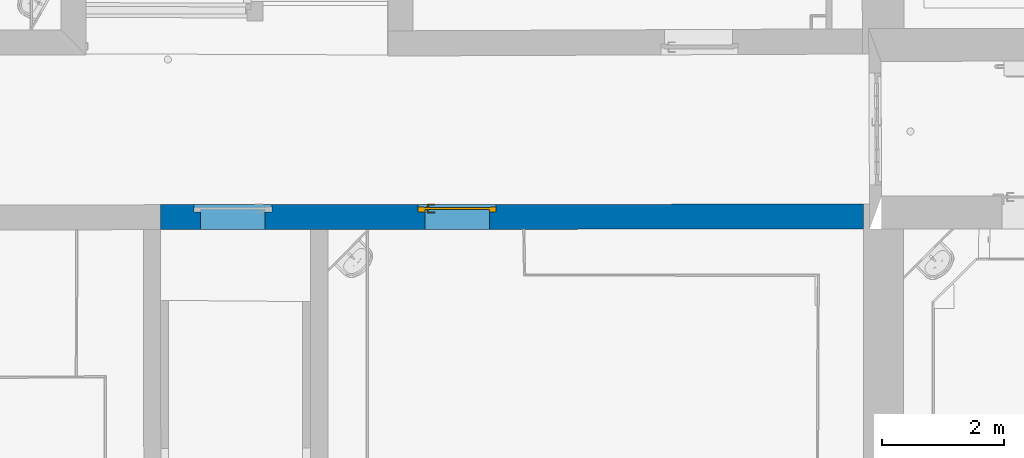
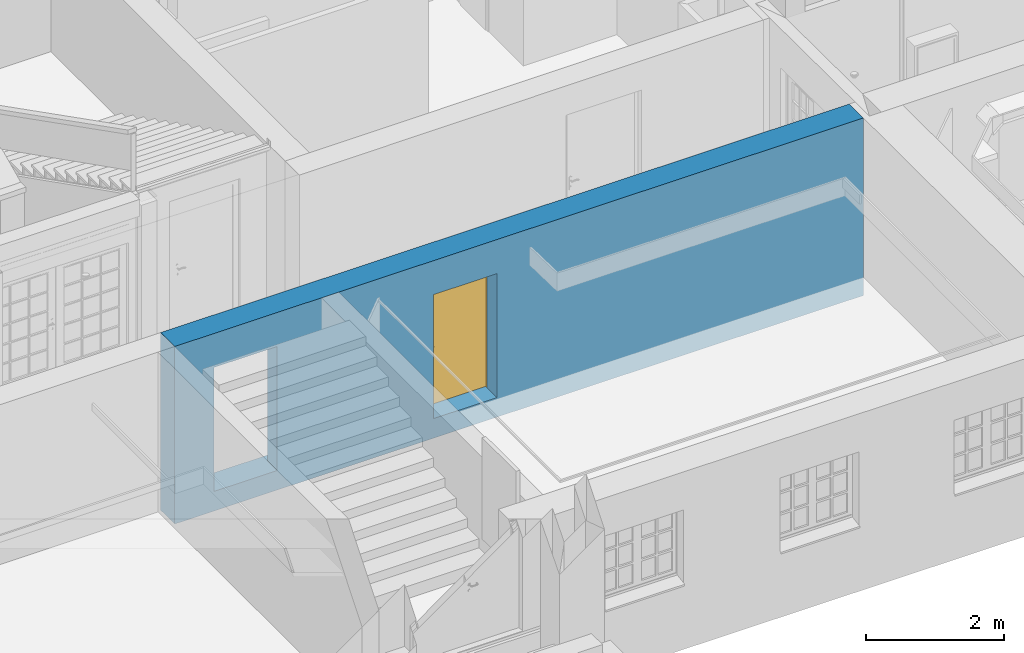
# One storey, part 87 of 196: 1 door, 1 wall, 2 openings.
"""IFC2X3 building model written with IfcOpenShell, lengths in metres."""

from ifc_helpers import new_model, entity, si_unit, converted_unit, derived_unit, money_unit, direction, frame, origin_with_axes, origin_2d_with_axis, place, context, subcontext, project, spatial, polyline, rectangle, outline, extrude, boolean, faceted_brep, material, type_object, element, fill, save


model = new_model("IFC2X3")

# Units and contexts
model_context = context("Model", 3, precision=1e-05, world=origin_with_axes(), true_north=direction((0.0, 1.0)))
body_context = subcontext(model_context, "Body", "Model", "MODEL_VIEW")
ifc_project = project(units=[si_unit("LENGTHUNIT", "METRE"), si_unit("AREAUNIT", "SQUARE_METRE"), si_unit("VOLUMEUNIT", "CUBIC_METRE"), converted_unit("PLANEANGLEUNIT", "DEGREE", entity("IfcPlaneAngleMeasure", 0.0174532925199), si_unit("PLANEANGLEUNIT", "RADIAN"), dimensions=[0, 0, 0, 0, 0, 0, 0]), money_unit("EUR"), converted_unit("TIMEUNIT", "Year", entity("IfcTimeMeasure", 31556926.0), si_unit("TIMEUNIT", "SECOND"), dimensions=[0, 0, 1, 0, 0, 0, 0]), si_unit("MASSUNIT", "GRAM", prefix="KILO"), si_unit("THERMODYNAMICTEMPERATUREUNIT", "DEGREE_CELSIUS"), si_unit("LUMINOUSINTENSITYUNIT", "LUMEN"), si_unit("ENERGYUNIT", "JOULE", prefix="MEGA"), derived_unit("THERMALCONDUCTANCEUNIT", [(si_unit("POWERUNIT", "WATT"), 1), (si_unit("LENGTHUNIT", "METRE"), -1), (si_unit("THERMODYNAMICTEMPERATUREUNIT", "KELVIN"), -1)]), derived_unit("SPECIFICHEATCAPACITYUNIT", [(si_unit("ENERGYUNIT", "JOULE"), 1), (si_unit("MASSUNIT", "GRAM", prefix="KILO"), -1), (si_unit("THERMODYNAMICTEMPERATUREUNIT", "KELVIN"), -1)]), derived_unit("MASSDENSITYUNIT", [(si_unit("MASSUNIT", "GRAM", prefix="KILO"), 1), (si_unit("VOLUMEUNIT", "CUBIC_METRE"), -1)])], contexts=[model_context])

# Site, building, storey
site_placement = place(None, origin_with_axes())
site = spatial("IfcSite", under=ifc_project, at=site_placement, Name="Gelände", CompositionType="ELEMENT")
building_placement = place(site_placement, origin_with_axes())
building = spatial("IfcBuilding", under=site, at=building_placement, Name="Gebäude", CompositionType="ELEMENT")
storey_placement = place(building_placement, frame((0.0, 0.0, -3.0), z_axis=(0.0, 0.0, 1.0), x_axis=(1.0, 0.0, 0.0)))
storey = spatial("IfcBuildingStorey", under=building, at=storey_placement, Name="KELLERGESCHOSS", CompositionType="ELEMENT", Elevation=-3.0)

# Wall, openings, door
ifc_material = material(Name="05_ALLGEMEIN - TRAGENDE BAUTEILE")
wall_type = type_object("IfcWallType", Name="05_ALLGEMEIN - TRAGENDE BAUTEILE 410", PredefinedType="ELEMENTEDWALL")
wall_placement = place(storey_placement, frame((3.60938984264, 16.81025163, -0.36), z_axis=(0.0, 0.0, 1.0), x_axis=(-0.999999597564, -0.000897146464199, 0.0)))
wall = element("IfcWall", 1, at=wall_placement, inside=storey, type_object=wall_type, material=ifc_material, Name="Wand-036", ObjectType="ELEMENTEDWALL", context=body_context, shape_type="CSG", body=[
    boolean("DIFFERENCE", boolean("DIFFERENCE", extrude(outline(polyline([(0.0, 0.0), (12.2253754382, 0.0), (12.2253754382, 0.41), (0.0, 0.41), (0.0, 0.0)])), origin_with_axes(), (0.0, 0.0, 1.0), 3.15), faceted_brep([(12.2250234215, 0.41, 0.0), (12.2250234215, 0.41, 3.15), (12.2253754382, 0.41, 3.15), (12.2253754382, 0.41, 0.0), (12.2253754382, 0.0, 3.15), (12.2253754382, 0.0, 0.0)], [[[0, 1, 2, 3]], [[4, 1, 0, 5]], [[1, 4, 2]], [[4, 5, 3, 2]], [[5, 0, 3]]])), faceted_brep([(0.660000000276, 0.0, 3.15), (0.660011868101, 0.41, 3.15), (0.0, 0.41, 3.15), (0.0, 0.0, 3.15), (0.660011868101, 0.41, 0.0), (0.660000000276, 0.0, 0.0), (0.0, 0.41, 0.0), (0.0, 0.0, 0.0)], [[[0, 1, 2, 3]], [[4, 1, 0, 5]], [[1, 4, 6, 2]], [[2, 6, 7, 3]], [[5, 0, 3, 7]], [[4, 5, 7, 6]]])),
])
opening_1_placement = place(wall_placement, frame((7.34448336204, 0.0, 0.347304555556), z_axis=(0.0, 0.0, 1.0), x_axis=(1.0, 0.0, 0.0)))
opening_1 = element("IfcOpeningElement", 2, at=opening_1_placement, cuts=wall, Name="Tür-022", context=body_context, shape_type="SweptSolid", body=[
    extrude(rectangle(XDim=1.06444475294, YDim=2.200287, at=origin_2d_with_axis()), frame((0.0, 0.123, 1.1001435), z_axis=(0.0, -1.0, 0.0), x_axis=(-1.0, 0.0, 0.0)), (0.0, 0.0, -1.0), 0.697),
    extrude(rectangle(XDim=1.28444475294, YDim=2.310287, at=origin_2d_with_axis()), frame((0.0, 0.043, 1.1551435), z_axis=(0.0, 1.0, 0.0), x_axis=(-1.0, 0.0, 0.0)), (0.0, 0.0, 1.0), 0.08),
    extrude(rectangle(XDim=1.28444475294, YDim=2.310287, at=origin_2d_with_axis()), frame((0.0, 0.043, 1.1551435), z_axis=(0.0, 1.0, 0.0), x_axis=(-1.0, 0.0, 0.0)), (0.0, 0.0, -1.0), 0.453),
])
opening_2_placement = place(wall_placement, frame((11.0361313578, 0.0, 0.347304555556), z_axis=(0.0, 0.0, 1.0), x_axis=(1.0, 0.0, 0.0)))
element("IfcOpeningElement", 3, at=opening_2_placement, cuts=wall, Name="Tür-022", context=body_context, shape_type="SweptSolid", body=[
    extrude(rectangle(XDim=1.06444475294, YDim=2.200287, at=origin_2d_with_axis()), frame((0.0, 0.123, 1.1001435), z_axis=(0.0, 1.0, 0.0), x_axis=(1.0, 0.0, 0.0)), (0.0, 0.0, 1.0), 0.697),
    extrude(rectangle(XDim=1.28444475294, YDim=2.310287, at=origin_2d_with_axis()), frame((0.0, 0.043, 1.1551435), z_axis=(0.0, -1.0, 0.0), x_axis=(1.0, 0.0, 0.0)), (0.0, 0.0, -1.0), 0.08),
    extrude(rectangle(XDim=1.28444475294, YDim=2.310287, at=origin_2d_with_axis()), frame((0.0, 0.043, 1.1551435), z_axis=(0.0, -1.0, 0.0), x_axis=(1.0, 0.0, 0.0)), (0.0, 0.0, 1.0), 0.453),
])
door_style = type_object("IfcDoorStyle", Name="Blockrahmentür 1-Fl 25", ConstructionType="NOTDEFINED", OperationType="SINGLE_SWING_RIGHT", ParameterTakesPrecedence=False, Sizeable=False)
door_placement = place(opening_1_placement, frame((0.532222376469, 0.0, 0.0), z_axis=(0.0, 0.0, 1.0), x_axis=(-1.0, 0.0, 0.0)))
door = element("IfcDoor", 4, at=door_placement, inside=storey, type_object=door_style, Name="Tür-022", ObjectType="NOTDEFINED", OverallHeight=2.31029, OverallWidth=1.28444, context=body_context, shape_type="Brep", body=[
    faceted_brep([(1.17444475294, -0.123, 0.0), (1.17444475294, -0.083, 0.0), (1.17444475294, -0.083, 2.310287), (1.17444475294, -0.123, 2.310287), (1.06444475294, -0.123, 0.0), (1.06444475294, -0.083, 0.0), (1.06444475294, -0.083, 2.200287), (0.644322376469, -0.083, 2.200287), (0.532322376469, -0.083, 2.200287), (0.0, -0.083, 2.200287), (0.0, -0.083, 0.0), (-0.11, -0.083, 0.0), (-0.11, -0.083, 2.310287), (-0.11, -0.123, 2.310287), (-0.11, -0.123, 0.0), (0.0, -0.123, 0.0), (0.0, -0.123, 2.200287), (0.532322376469, -0.123, 2.200287), (0.644322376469, -0.123, 2.200287), (1.06444475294, -0.123, 2.200287)], [[[0, 1, 2, 3]], [[4, 5, 1, 0]], [[1, 5, 6, 7, 8, 9, 10, 11, 12, 2]], [[3, 2, 12, 13]], [[0, 3, 13, 14, 15, 16, 17, 18, 19, 4]], [[19, 6, 5, 4]], [[18, 7, 6, 19]], [[17, 8, 7, 18]], [[16, 9, 8, 17]], [[15, 10, 9, 16]], [[14, 11, 10, 15]], [[13, 12, 11, 14]]]),
    faceted_brep([(1.17444475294, -0.083, 0.0), (1.17444475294, -0.043, 0.0), (1.17444475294, -0.043, 2.310287), (1.17444475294, -0.083, 2.310287), (1.07644475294, -0.083, 0.0), (1.07644475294, -0.043, 0.0), (1.07644475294, -0.043, 2.212287), (0.632322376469, -0.043, 2.212287), (0.544322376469, -0.043, 2.212287), (-0.012, -0.043, 2.212287), (-0.012, -0.043, 0.0), (-0.11, -0.043, 0.0), (-0.11, -0.043, 2.310287), (-0.11, -0.083, 2.310287), (-0.11, -0.083, 0.0), (-0.012, -0.083, 0.0), (-0.012, -0.083, 2.212287), (0.544322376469, -0.083, 2.212287), (0.632322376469, -0.083, 2.212287), (1.07644475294, -0.083, 2.212287)], [[[0, 1, 2, 3]], [[4, 5, 1, 0]], [[1, 5, 6, 7, 8, 9, 10, 11, 12, 2]], [[3, 2, 12, 13]], [[0, 3, 13, 14, 15, 16, 17, 18, 19, 4]], [[19, 6, 5, 4]], [[18, 7, 6, 19]], [[17, 8, 7, 18]], [[16, 9, 8, 17]], [[15, 10, 9, 16]], [[14, 11, 10, 15]], [[13, 12, 11, 14]]]),
    faceted_brep([(1.07644475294, -0.047, 0.0), (-0.012, -0.047, 0.0), (-0.012, -0.047, 2.212287), (1.07644475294, -0.047, 2.212287), (1.07644475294, -0.083, 0.0), (-0.012, -0.083, 0.0), (-0.012, -0.083, 2.212287), (1.07644475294, -0.083, 2.212287)], [[[0, 1, 2, 3]], [[1, 0, 4, 5]], [[2, 1, 5, 6]], [[3, 2, 6, 7]], [[0, 3, 7, 4]], [[5, 4, 7, 6]]]),
    faceted_brep([(0.0432977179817, -0.123, 1.05647213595), (0.048, -0.123, 1.058), (0.048, -0.103, 1.058), (0.0432977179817, -0.103, 1.05647213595), (0.0403915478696, -0.123, 1.05247213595), (0.0403915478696, -0.123, 1.04752786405), (0.0432977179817, -0.123, 1.04352786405), (0.048, -0.123, 1.042), (0.0527022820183, -0.123, 1.04352786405), (0.0556084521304, -0.123, 1.04752786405), (0.0556084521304, -0.123, 1.05247213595), (0.0527022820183, -0.123, 1.05647213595), (0.0527022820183, -0.103, 1.05647213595), (0.048, -0.101, 1.06), (0.0421221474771, -0.101, 1.05809016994), (0.0403915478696, -0.103, 1.05247213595), (0.0403915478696, -0.103, 1.04752786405), (0.0432977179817, -0.103, 1.04352786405), (0.048, -0.103, 1.042), (0.0527022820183, -0.103, 1.04352786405), (0.0556084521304, -0.103, 1.04752786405), (0.0556084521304, -0.103, 1.05247213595), (0.0538778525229, -0.101, 1.05809016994), (0.048, -0.093, 1.06), (0.0421221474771, -0.093, 1.05809016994), (0.038489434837, -0.101, 1.05309016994), (0.038489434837, -0.101, 1.04690983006), (0.0421221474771, -0.101, 1.04190983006), (0.048, -0.101, 1.04), (0.0538778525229, -0.101, 1.04190983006), (0.057510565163, -0.101, 1.04690983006), (0.057510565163, -0.101, 1.05309016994), (0.0538778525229, -0.093, 1.05809016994), (0.057510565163, -0.093, 1.05309016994), (0.057510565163, -0.093, 1.04690983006), (0.0538778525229, -0.093, 1.04190983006), (0.048, -0.093, 1.04), (0.0421221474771, -0.093, 1.04190983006), (0.038489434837, -0.093, 1.04690983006), (0.038489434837, -0.093, 1.05309016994)], [[[0, 1, 2, 3]], [[1, 0, 4, 5, 6, 7, 8, 9, 10, 11]], [[1, 11, 12, 2]], [[3, 2, 13, 14]], [[4, 0, 3, 15]], [[5, 4, 15, 16]], [[6, 5, 16, 17]], [[7, 6, 17, 18]], [[8, 7, 18, 19]], [[9, 8, 19, 20]], [[10, 9, 20, 21]], [[11, 10, 21, 12]], [[2, 12, 22, 13]], [[14, 13, 23, 24]], [[15, 3, 14, 25]], [[16, 15, 25, 26]], [[17, 16, 26, 27]], [[18, 17, 27, 28]], [[19, 18, 28, 29]], [[20, 19, 29, 30]], [[21, 20, 30, 31]], [[12, 21, 31, 22]], [[13, 22, 32, 23]], [[23, 32, 33, 34, 35, 36, 37, 38, 39, 24]], [[25, 14, 24, 39]], [[26, 25, 39, 38]], [[27, 26, 38, 37]], [[28, 27, 37, 36]], [[29, 28, 36, 35]], [[30, 29, 35, 34]], [[31, 30, 34, 33]], [[22, 31, 33, 32]]]),
    faceted_brep([(0.0601883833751, -0.093, 1.11759695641), (0.0524435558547, -0.093, 1.12195567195), (0.0435564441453, -0.093, 1.12195567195), (0.0358116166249, -0.093, 1.11759695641), (0.0312, -0.093, 1.11), (0.0255, -0.093, 1.11), (0.0255, -0.093, 0.89), (0.0312, -0.093, 0.89), (0.0358116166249, -0.093, 0.882403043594), (0.0435564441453, -0.093, 0.878044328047), (0.0524435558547, -0.093, 0.878044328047), (0.0601883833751, -0.093, 0.882403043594), (0.0648, -0.093, 0.89), (0.0705, -0.093, 0.89), (0.0705, -0.093, 1.11), (0.0648, -0.093, 1.11), (0.048, -0.093, 0.967425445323), (0.053375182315, -0.093, 0.965143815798), (0.0554678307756, -0.093, 0.959692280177), (0.053, -0.093, 0.9544), (0.053, -0.093, 0.9375), (0.0515355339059, -0.093, 0.933964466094), (0.048, -0.093, 0.9325), (0.0444644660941, -0.093, 0.933964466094), (0.043, -0.093, 0.9375), (0.043, -0.093, 0.9544), (0.0405321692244, -0.093, 0.959692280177), (0.042624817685, -0.093, 0.965143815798), (0.0601883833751, -0.083, 1.11759695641), (0.0524435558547, -0.083, 1.12195567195), (0.0435564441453, -0.083, 1.12195567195), (0.0358116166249, -0.083, 1.11759695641), (0.0312, -0.083, 1.11), (0.0255, -0.083, 1.11), (0.0255, -0.083, 0.89), (0.0312, -0.083, 0.89), (0.0358116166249, -0.083, 0.882403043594), (0.0435564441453, -0.083, 0.878044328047), (0.0524435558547, -0.083, 0.878044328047), (0.0601883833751, -0.083, 0.882403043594), (0.0648, -0.083, 0.89), (0.0705, -0.083, 0.89), (0.0705, -0.083, 1.11), (0.0648, -0.083, 1.11), (0.048, -0.083, 0.967425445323), (0.053375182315, -0.083, 0.965143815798), (0.0554678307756, -0.083, 0.959692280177), (0.053, -0.083, 0.9544), (0.053, -0.083, 0.9375), (0.0515355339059, -0.083, 0.933964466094), (0.048, -0.083, 0.9325), (0.0444644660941, -0.083, 0.933964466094), (0.043, -0.083, 0.9375), (0.043, -0.083, 0.9544), (0.0405321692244, -0.083, 0.959692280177), (0.042624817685, -0.083, 0.965143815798)], [[[0, 1, 2, 3, 4, 5, 6, 7, 8, 9, 10, 11, 12, 13, 14, 15], [16, 17, 18, 19, 20, 21, 22, 23, 24, 25, 26, 27]], [[1, 0, 28, 29]], [[2, 1, 29, 30]], [[3, 2, 30, 31]], [[4, 3, 31, 32]], [[5, 4, 32, 33]], [[6, 5, 33, 34]], [[7, 6, 34, 35]], [[8, 7, 35, 36]], [[9, 8, 36, 37]], [[10, 9, 37, 38]], [[11, 10, 38, 39]], [[12, 11, 39, 40]], [[13, 12, 40, 41]], [[14, 13, 41, 42]], [[15, 14, 42, 43]], [[0, 15, 43, 28]], [[17, 16, 44, 45]], [[18, 17, 45, 46]], [[19, 18, 46, 47]], [[19, 47, 48, 20]], [[20, 48, 49, 21]], [[21, 49, 50, 22]], [[22, 50, 51, 23]], [[23, 51, 52, 24]], [[53, 25, 24, 52]], [[26, 25, 53, 54]], [[27, 26, 54, 55]], [[16, 27, 55, 44]], [[40, 39, 38, 37, 36, 35, 34, 33, 32, 31, 30, 29, 28, 43, 42, 41], [54, 53, 52, 51, 50, 49, 48, 47, 46, 45, 44, 55]]]),
    faceted_brep([(0.162253, -0.123, 1.057158), (0.162253, -0.138, 1.057158), (0.162254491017, -0.138, 1.05719388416), (0.162254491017, -0.123, 1.05719388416), (0.135225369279, -0.123, 1.06432652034), (0.135225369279, -0.138, 1.06432652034), (0.107397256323, -0.138, 1.06706086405), (0.0794912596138, -0.138, 1.06529002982), (0.052232, -0.138, 1.05906), (0.0458294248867, -0.138, 1.05976125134), (0.0403273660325, -0.138, 1.05641280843), (0.0380084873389, -0.138, 1.05040385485), (0.0398348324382, -0.138, 1.04422735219), (0.0450486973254, -0.138, 1.04044577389), (0.0514869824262, -0.138, 1.04062800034), (0.0564786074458, -0.138, 1.04469843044), (0.056458, -0.138, 1.044666), (0.0817467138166, -0.138, 1.05019878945), (0.107589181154, -0.138, 1.05171460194), (0.133351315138, -0.138, 1.04917624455), (0.158401, -0.138, 1.042646), (0.163944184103, -0.138, 1.04356849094), (0.16730572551, -0.138, 1.04807159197), (0.166614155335, -0.138, 1.05364829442), (0.166614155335, -0.123, 1.05364829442), (0.16730572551, -0.123, 1.04807159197), (0.163944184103, -0.123, 1.04356849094), (0.158401, -0.123, 1.042646), (0.133351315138, -0.123, 1.04917624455), (0.107589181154, -0.123, 1.05171460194), (0.0817467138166, -0.123, 1.05019878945), (0.056458, -0.123, 1.044666), (0.0564786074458, -0.123, 1.04469843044), (0.0514869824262, -0.123, 1.04062800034), (0.0450486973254, -0.123, 1.04044577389), (0.0398348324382, -0.123, 1.04422735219), (0.0380084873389, -0.123, 1.05040385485), (0.0403273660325, -0.123, 1.05641280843), (0.0458294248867, -0.123, 1.05976125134), (0.052232, -0.123, 1.05906), (0.0794912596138, -0.123, 1.06529002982), (0.107397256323, -0.123, 1.06706086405)], [[[0, 1, 2, 3]], [[4, 5, 1, 0]], [[1, 5, 6, 7, 8, 9, 10, 11, 12, 13, 14, 15, 16, 17, 18, 19, 20, 21, 22, 23, 2]], [[3, 2, 23, 24]], [[0, 3, 24, 25, 26, 27, 28, 29, 30, 31, 32, 33, 34, 35, 36, 37, 38, 39, 40, 41, 4]], [[41, 6, 5, 4]], [[40, 7, 6, 41]], [[39, 8, 7, 40]], [[38, 9, 8, 39]], [[37, 10, 9, 38]], [[36, 11, 10, 37]], [[35, 12, 11, 36]], [[34, 13, 12, 35]], [[33, 14, 13, 34]], [[32, 15, 14, 33]], [[31, 16, 15, 32]], [[30, 17, 16, 31]], [[29, 18, 17, 30]], [[28, 19, 18, 29]], [[27, 20, 19, 28]], [[26, 21, 20, 27]], [[25, 22, 21, 26]], [[24, 23, 22, 25]]]),
    faceted_brep([(0.0432977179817, -0.007, 1.05647213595), (0.0432977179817, -0.027, 1.05647213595), (0.048, -0.027, 1.058), (0.048, -0.00699999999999, 1.058), (0.0403915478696, -0.00699999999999, 1.05247213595), (0.0403915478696, -0.027, 1.05247213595), (0.0421221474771, -0.029, 1.05809016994), (0.048, -0.029, 1.06), (0.0527022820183, -0.027, 1.05647213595), (0.0527022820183, -0.00699999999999, 1.05647213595), (0.0556084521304, -0.007, 1.05247213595), (0.0556084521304, -0.007, 1.04752786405), (0.0527022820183, -0.00699999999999, 1.04352786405), (0.048, -0.00699999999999, 1.042), (0.0432977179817, -0.007, 1.04352786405), (0.0403915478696, -0.00699999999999, 1.04752786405), (0.0403915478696, -0.027, 1.04752786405), (0.038489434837, -0.029, 1.05309016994), (0.0421221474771, -0.037, 1.05809016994), (0.048, -0.037, 1.06), (0.0538778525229, -0.029, 1.05809016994), (0.0556084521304, -0.027, 1.05247213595), (0.0556084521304, -0.027, 1.04752786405), (0.0527022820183, -0.027, 1.04352786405), (0.048, -0.027, 1.042), (0.0432977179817, -0.027, 1.04352786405), (0.038489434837, -0.029, 1.04690983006), (0.038489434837, -0.037, 1.05309016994), (0.038489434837, -0.037, 1.04690983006), (0.0421221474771, -0.037, 1.04190983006), (0.048, -0.037, 1.04), (0.0538778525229, -0.037, 1.04190983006), (0.057510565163, -0.037, 1.04690983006), (0.057510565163, -0.037, 1.05309016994), (0.0538778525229, -0.037, 1.05809016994), (0.057510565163, -0.029, 1.05309016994), (0.057510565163, -0.029, 1.04690983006), (0.0538778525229, -0.029, 1.04190983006), (0.048, -0.029, 1.04), (0.0421221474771, -0.029, 1.04190983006)], [[[0, 1, 2, 3]], [[4, 5, 1, 0]], [[1, 6, 7, 2]], [[3, 2, 8, 9]], [[3, 9, 10, 11, 12, 13, 14, 15, 4, 0]], [[15, 16, 5, 4]], [[5, 17, 6, 1]], [[6, 18, 19, 7]], [[2, 7, 20, 8]], [[9, 8, 21, 10]], [[10, 21, 22, 11]], [[11, 22, 23, 12]], [[12, 23, 24, 13]], [[13, 24, 25, 14]], [[14, 25, 16, 15]], [[16, 26, 17, 5]], [[17, 27, 18, 6]], [[19, 18, 27, 28, 29, 30, 31, 32, 33, 34]], [[7, 19, 34, 20]], [[8, 20, 35, 21]], [[21, 35, 36, 22]], [[22, 36, 37, 23]], [[23, 37, 38, 24]], [[24, 38, 39, 25]], [[25, 39, 26, 16]], [[26, 28, 27, 17]], [[39, 29, 28, 26]], [[38, 30, 29, 39]], [[37, 31, 30, 38]], [[36, 32, 31, 37]], [[35, 33, 32, 36]], [[20, 34, 33, 35]]]),
    faceted_brep([(0.0601883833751, -0.047, 1.11759695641), (0.0524435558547, -0.047, 1.12195567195), (0.0435564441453, -0.047, 1.12195567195), (0.0358116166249, -0.047, 1.11759695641), (0.0312, -0.047, 1.11), (0.0255, -0.047, 1.11), (0.0255, -0.047, 0.89), (0.0312, -0.047, 0.89), (0.0358116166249, -0.047, 0.882403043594), (0.0435564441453, -0.047, 0.878044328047), (0.0524435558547, -0.047, 0.878044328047), (0.0601883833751, -0.047, 0.882403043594), (0.0648, -0.047, 0.89), (0.0705, -0.047, 0.89), (0.0705, -0.047, 1.11), (0.0648, -0.047, 1.11), (0.048, -0.047, 0.967425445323), (0.053375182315, -0.047, 0.965143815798), (0.0554678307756, -0.047, 0.959692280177), (0.053, -0.047, 0.9544), (0.053, -0.047, 0.9375), (0.0515355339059, -0.047, 0.933964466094), (0.048, -0.047, 0.9325), (0.0444644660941, -0.047, 0.933964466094), (0.043, -0.047, 0.9375), (0.043, -0.047, 0.9544), (0.0405321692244, -0.047, 0.959692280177), (0.042624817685, -0.047, 0.965143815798), (0.0524435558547, -0.037, 1.12195567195), (0.0601883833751, -0.037, 1.11759695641), (0.0435564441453, -0.037, 1.12195567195), (0.0358116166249, -0.037, 1.11759695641), (0.0312, -0.037, 1.11), (0.0255, -0.037, 1.11), (0.0255, -0.037, 0.89), (0.0312, -0.037, 0.89), (0.0358116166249, -0.037, 0.882403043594), (0.0435564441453, -0.037, 0.878044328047), (0.0524435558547, -0.037, 0.878044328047), (0.0601883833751, -0.037, 0.882403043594), (0.0648, -0.037, 0.89), (0.0705, -0.037, 0.89), (0.0705, -0.037, 1.11), (0.0648, -0.037, 1.11), (0.048, -0.037, 0.967425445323), (0.053375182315, -0.037, 0.965143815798), (0.0554678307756, -0.037, 0.959692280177), (0.053, -0.037, 0.9544), (0.053, -0.037, 0.9375), (0.0515355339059, -0.037, 0.933964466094), (0.048, -0.037, 0.9325), (0.0444644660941, -0.037, 0.933964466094), (0.043, -0.037, 0.9375), (0.043, -0.037, 0.9544), (0.0405321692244, -0.037, 0.959692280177), (0.042624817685, -0.037, 0.965143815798)], [[[0, 1, 2, 3, 4, 5, 6, 7, 8, 9, 10, 11, 12, 13, 14, 15], [16, 17, 18, 19, 20, 21, 22, 23, 24, 25, 26, 27]], [[28, 1, 0, 29]], [[30, 2, 1, 28]], [[31, 3, 2, 30]], [[32, 4, 3, 31]], [[33, 5, 4, 32]], [[34, 6, 5, 33]], [[35, 7, 6, 34]], [[36, 8, 7, 35]], [[37, 9, 8, 36]], [[38, 10, 9, 37]], [[39, 11, 10, 38]], [[40, 12, 11, 39]], [[41, 13, 12, 40]], [[42, 14, 13, 41]], [[43, 15, 14, 42]], [[29, 0, 15, 43]], [[17, 16, 44, 45]], [[18, 17, 45, 46]], [[19, 18, 46, 47]], [[19, 47, 48, 20]], [[20, 48, 49, 21]], [[21, 49, 50, 22]], [[22, 50, 51, 23]], [[23, 51, 52, 24]], [[53, 25, 24, 52]], [[26, 25, 53, 54]], [[27, 26, 54, 55]], [[16, 27, 55, 44]], [[40, 39, 38, 37, 36, 35, 34, 33, 32, 31, 30, 28, 29, 43, 42, 41], [54, 53, 52, 51, 50, 49, 48, 47, 46, 45, 44, 55]]]),
    faceted_brep([(0.162253, -0.00699999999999, 1.057158), (0.162254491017, -0.007, 1.05719388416), (0.162254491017, 0.008, 1.05719388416), (0.162253, 0.008, 1.057158), (0.135225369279, -0.007, 1.06432652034), (0.107397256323, -0.00699999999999, 1.06706086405), (0.0794912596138, -0.00699999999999, 1.06529002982), (0.052232, -0.007, 1.05906), (0.0458294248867, -0.007, 1.05976125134), (0.0403273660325, -0.00699999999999, 1.05641280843), (0.0380084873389, -0.00699999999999, 1.05040385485), (0.0398348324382, -0.007, 1.04422735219), (0.0450486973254, -0.00699999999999, 1.04044577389), (0.0514869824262, -0.00699999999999, 1.04062800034), (0.0564786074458, -0.00699999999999, 1.04469843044), (0.056458, -0.007, 1.044666), (0.0817467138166, -0.00699999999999, 1.05019878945), (0.107589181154, -0.00699999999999, 1.05171460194), (0.133351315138, -0.00699999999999, 1.04917624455), (0.158401, -0.007, 1.042646), (0.163944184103, -0.00699999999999, 1.04356849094), (0.16730572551, -0.007, 1.04807159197), (0.166614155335, -0.007, 1.05364829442), (0.166614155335, 0.008, 1.05364829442), (0.16730572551, 0.008, 1.04807159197), (0.163944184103, 0.00800000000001, 1.04356849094), (0.158401, 0.008, 1.042646), (0.133351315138, 0.00800000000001, 1.04917624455), (0.107589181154, 0.00800000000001, 1.05171460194), (0.0817467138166, 0.00800000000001, 1.05019878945), (0.056458, 0.008, 1.044666), (0.0564786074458, 0.00800000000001, 1.04469843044), (0.0514869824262, 0.00800000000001, 1.04062800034), (0.0450486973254, 0.008, 1.04044577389), (0.0398348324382, 0.008, 1.04422735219), (0.0380084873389, 0.00800000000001, 1.05040385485), (0.0403273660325, 0.00800000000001, 1.05641280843), (0.0458294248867, 0.008, 1.05976125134), (0.052232, 0.008, 1.05906), (0.0794912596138, 0.008, 1.06529002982), (0.107397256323, 0.008, 1.06706086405), (0.135225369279, 0.008, 1.06432652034)], [[[0, 1, 2, 3]], [[0, 4, 5, 6, 7, 8, 9, 10, 11, 12, 13, 14, 15, 16, 17, 18, 19, 20, 21, 22, 1]], [[1, 22, 23, 2]], [[3, 2, 23, 24, 25, 26, 27, 28, 29, 30, 31, 32, 33, 34, 35, 36, 37, 38, 39, 40, 41]], [[4, 0, 3, 41]], [[5, 4, 41, 40]], [[6, 5, 40, 39]], [[7, 6, 39, 38]], [[8, 7, 38, 37]], [[9, 8, 37, 36]], [[10, 9, 36, 35]], [[11, 10, 35, 34]], [[12, 11, 34, 33]], [[13, 12, 33, 32]], [[14, 13, 32, 31]], [[15, 14, 31, 30]], [[16, 15, 30, 29]], [[17, 16, 29, 28]], [[18, 17, 28, 27]], [[19, 18, 27, 26]], [[20, 19, 26, 25]], [[21, 20, 25, 24]], [[22, 21, 24, 23]]]),
])
fill(opening_1, door)

save(model, "model.ifc")
